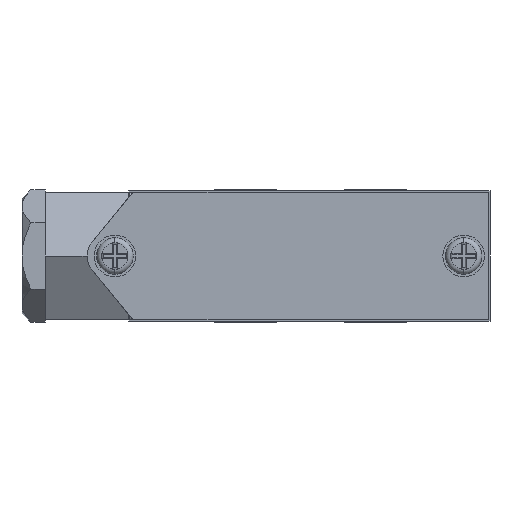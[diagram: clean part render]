
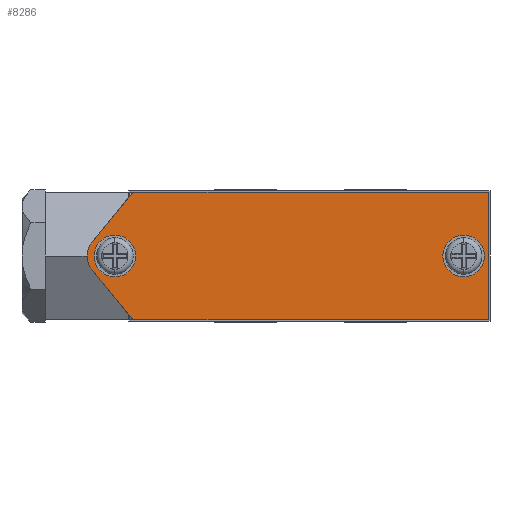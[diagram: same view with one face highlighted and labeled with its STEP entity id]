
A CAD part, front view. The second image highlights one B-rep face of the part: STEP entity #8286.
In plain terms, the highlighted planar face has unit normal (0, -1, 0).
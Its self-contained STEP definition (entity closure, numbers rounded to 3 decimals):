
#97 = VERTEX_POINT ( 'NONE', #2087 ) ;
#98 = VERTEX_POINT ( 'NONE', #2088 ) ;
#101 = VERTEX_POINT ( 'NONE', #2091 ) ;
#102 = VERTEX_POINT ( 'NONE', #2092 ) ;
#264 = VERTEX_POINT ( 'NONE', #2253 ) ;
#265 = VERTEX_POINT ( 'NONE', #2254 ) ;
#266 = VERTEX_POINT ( 'NONE', #2255 ) ;
#267 = VERTEX_POINT ( 'NONE', #2256 ) ;
#268 = VERTEX_POINT ( 'NONE', #2257 ) ;
#269 = VERTEX_POINT ( 'NONE', #2258 ) ;
#420 = EDGE_LOOP ( 'NONE', ( #5547, #5543, #5544, #5542, #5541, #5540 ) ) ;
#421 = EDGE_LOOP ( 'NONE', ( #5549, #5545 ) ) ;
#422 = EDGE_LOOP ( 'NONE', ( #5548, #5546 ) ) ;
#562 = DIRECTION ( 'NONE',  ( 0., -1., 0. ) ) ;
#563 = DIRECTION ( 'NONE',  ( 0., 0., -1. ) ) ;
#564 = CARTESIAN_POINT ( 'NONE',  ( 29.4, 0., 0. ) ) ;
#565 = DIRECTION ( 'NONE',  ( 0., -1., 0. ) ) ;
#566 = DIRECTION ( 'NONE',  ( 0., 0., -1. ) ) ;
#567 = CARTESIAN_POINT ( 'NONE',  ( -38.95, 0., 0. ) ) ;
#568 = LINE ( 'NONE', #569, #3296 ) ;
#569 = CARTESIAN_POINT ( 'NONE',  ( -34.15, 0., 12.25 ) ) ;
#570 = DIRECTION ( 'NONE',  ( 1., 0., 0. ) ) ;
#571 = LINE ( 'NONE', #572, #3295 ) ;
#572 = CARTESIAN_POINT ( 'NONE',  ( 34.15, 0., 12.25 ) ) ;
#573 = DIRECTION ( 'NONE',  ( 0., 0., -1. ) ) ;
#574 = LINE ( 'NONE', #575, #3293 ) ;
#575 = CARTESIAN_POINT ( 'NONE',  ( -34.15, 0., 12.25 ) ) ;
#576 = DIRECTION ( 'NONE',  ( -0.631, 0., -0.776 ) ) ;
#577 = DIRECTION ( 'NONE',  ( 0., -1., 0. ) ) ;
#578 = DIRECTION ( 'NONE',  ( 0., 0., -1. ) ) ;
#580 = LINE ( 'NONE', #581, #3289 ) ;
#581 = CARTESIAN_POINT ( 'NONE',  ( -42.054, 0., -2.523 ) ) ;
#582 = DIRECTION ( 'NONE',  ( 0.631, 0., -0.776 ) ) ;
#583 = LINE ( 'NONE', #584, #3288 ) ;
#584 = CARTESIAN_POINT ( 'NONE',  ( -34.15, 0., -12.25 ) ) ;
#585 = DIRECTION ( 'NONE',  ( -1., 0., 0. ) ) ;
#2087 = CARTESIAN_POINT ( 'NONE',  ( -37.6, 0., 4. ) ) ;
#2088 = CARTESIAN_POINT ( 'NONE',  ( -37.6, 0., -4. ) ) ;
#2091 = CARTESIAN_POINT ( 'NONE',  ( 29.4, 0., 4. ) ) ;
#2092 = CARTESIAN_POINT ( 'NONE',  ( 29.4, 0., -4. ) ) ;
#2253 = CARTESIAN_POINT ( 'NONE',  ( 34.15, 0., 12.25 ) ) ;
#2254 = CARTESIAN_POINT ( 'NONE',  ( 34.15, 0., -12.25 ) ) ;
#2255 = CARTESIAN_POINT ( 'NONE',  ( -34.15, 0., 12.25 ) ) ;
#2256 = CARTESIAN_POINT ( 'NONE',  ( -42.054, 0., 2.523 ) ) ;
#2257 = CARTESIAN_POINT ( 'NONE',  ( -42.054, 0., -2.523 ) ) ;
#2258 = CARTESIAN_POINT ( 'NONE',  ( -34.15, 0., -12.25 ) ) ;
#2638 = CARTESIAN_POINT ( 'NONE',  ( -37.6, 0., 0. ) ) ;
#2639 = DIRECTION ( 'NONE',  ( 0., -1., 0. ) ) ;
#2640 = DIRECTION ( 'NONE',  ( 0., 0., -1. ) ) ;
#2650 = CARTESIAN_POINT ( 'NONE',  ( 29.4, 0., 0. ) ) ;
#2651 = DIRECTION ( 'NONE',  ( 0., -1., 0. ) ) ;
#2652 = DIRECTION ( 'NONE',  ( 0., 0., -1. ) ) ;
#2997 = AXIS2_PLACEMENT_3D ( 'NONE', #2638, #2639, #2640 ) ;
#3288 = VECTOR ( 'NONE', #585, 1000. ) ;
#3289 = VECTOR ( 'NONE', #582, 1000. ) ;
#3293 = VECTOR ( 'NONE', #576, 1000. ) ;
#3294 = AXIS2_PLACEMENT_3D ( 'NONE', #567, #577, #578 ) ;
#3295 = VECTOR ( 'NONE', #573, 1000. ) ;
#3296 = VECTOR ( 'NONE', #570, 1000. ) ;
#3302 = AXIS2_PLACEMENT_3D ( 'NONE', #7725, #562, #563 ) ;
#3328 = AXIS2_PLACEMENT_3D ( 'NONE', #564, #565, #566 ) ;
#3655 = AXIS2_PLACEMENT_3D ( 'NONE', #2650, #2651, #2652 ) ;
#3918 = AXIS2_PLACEMENT_3D ( 'NONE', #4446, #4447, #4448 ) ;
#3920 = FACE_OUTER_BOUND ( 'NONE', #420, .T. ) ;
#3925 = FACE_BOUND ( 'NONE', #421, .T. ) ;
#3931 = FACE_BOUND ( 'NONE', #422, .T. ) ;
#4445 = PLANE ( 'NONE',  #3918 ) ;
#4446 = CARTESIAN_POINT ( 'NONE',  ( 0., 0., 0. ) ) ;
#4447 = DIRECTION ( 'NONE',  ( 0., -1., 0. ) ) ;
#4448 = DIRECTION ( 'NONE',  ( 0., 0., -1. ) ) ;
#5214 = CIRCLE ( 'NONE', #3294, 4. ) ;
#5215 = CIRCLE ( 'NONE', #3328, 4. ) ;
#5216 = CIRCLE ( 'NONE', #3302, 4. ) ;
#5337 = CIRCLE ( 'NONE', #3655, 4. ) ;
#5339 = CIRCLE ( 'NONE', #2997, 4. ) ;
#5540 = ORIENTED_EDGE ( 'NONE', *, *, #8152, .F. ) ;
#5541 = ORIENTED_EDGE ( 'NONE', *, *, #8151, .T. ) ;
#5542 = ORIENTED_EDGE ( 'NONE', *, *, #8150, .T. ) ;
#5543 = ORIENTED_EDGE ( 'NONE', *, *, #8147, .F. ) ;
#5544 = ORIENTED_EDGE ( 'NONE', *, *, #8149, .T. ) ;
#5545 = ORIENTED_EDGE ( 'NONE', *, *, #6419, .F. ) ;
#5546 = ORIENTED_EDGE ( 'NONE', *, *, #6415, .F. ) ;
#5547 = ORIENTED_EDGE ( 'NONE', *, *, #8148, .F. ) ;
#5548 = ORIENTED_EDGE ( 'NONE', *, *, #8145, .F. ) ;
#5549 = ORIENTED_EDGE ( 'NONE', *, *, #8146, .F. ) ;
#6415 = EDGE_CURVE ( 'NONE', #97, #98, #5339, .T. ) ;
#6419 = EDGE_CURVE ( 'NONE', #101, #102, #5337, .T. ) ;
#7725 = CARTESIAN_POINT ( 'NONE',  ( -37.6, 0., 0. ) ) ;
#8145 = EDGE_CURVE ( 'NONE', #98, #97, #5216, .T. ) ;
#8146 = EDGE_CURVE ( 'NONE', #102, #101, #5215, .T. ) ;
#8147 = EDGE_CURVE ( 'NONE', #266, #264, #568, .T. ) ;
#8148 = EDGE_CURVE ( 'NONE', #264, #265, #571, .T. ) ;
#8149 = EDGE_CURVE ( 'NONE', #266, #267, #574, .T. ) ;
#8150 = EDGE_CURVE ( 'NONE', #267, #268, #5214, .T. ) ;
#8151 = EDGE_CURVE ( 'NONE', #268, #269, #580, .T. ) ;
#8152 = EDGE_CURVE ( 'NONE', #265, #269, #583, .T. ) ;
#8286 = ADVANCED_FACE ( 'NONE', ( #3931, #3925, #3920 ), #4445, .T. ) ;
